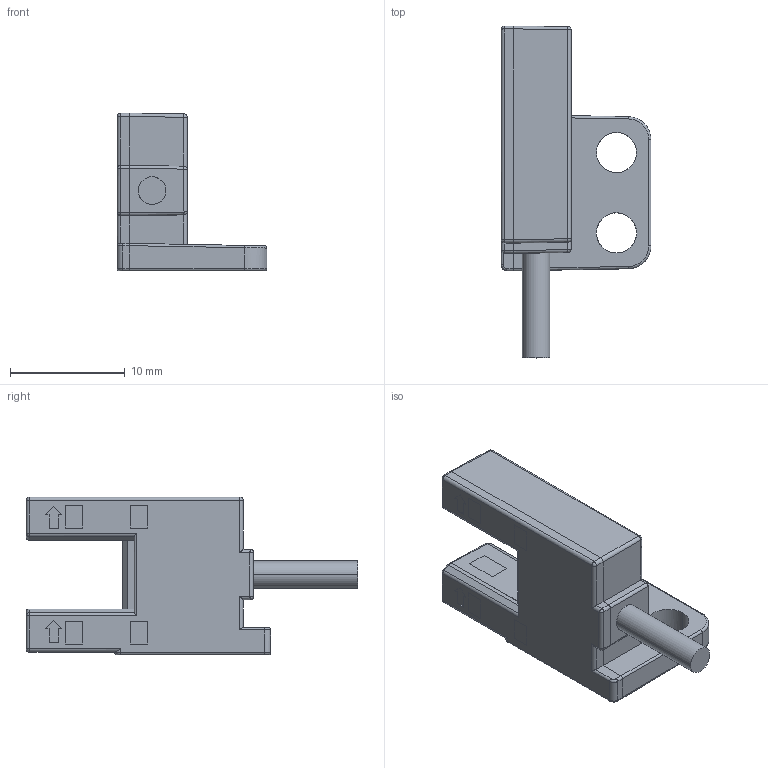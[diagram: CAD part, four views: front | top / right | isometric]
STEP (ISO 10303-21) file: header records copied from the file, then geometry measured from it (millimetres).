
FILE_DESCRIPTION((''),'2;1');
FILE_NAME('012_R45_ASM_HSG_ASM','2024-05-30T10:06:25',('PC'),(''),'CREO PARAMETRIC BY PTC INC, 2020033','CREO PARAMETRIC BY PTC INC, 2020033','');
FILE_SCHEMA(('CONFIG_CONTROL_DESIGN','SHAPE_APPEARANCE_LAYERS_GROUPS'));
Length unit declared in the file: millimetre
Products named in the file (4): 012R_R45_CASE; 012_T45_INSIDE; 013_WIRE; 012_R45_ASM_HSG_ASM
Assembly tree (3 placements, depth 2):
  012_R45_ASM_HSG_ASM
    012R_R45_CASE
    012_T45_INSIDE
    013_WIRE
Bounding box: 13.05 x 28.9 x 13.75 mm (x, y, z)
Volume: 1361.2 mm3; surface area: 2514.4 mm2
Topology: 9 solids, 9 shells, 588 faces, 1606 edges, 1032 vertices
Faces by surface type: plane 382, cylinder 157, bspline 39, torus 4, cone 4, sphere 2
Entity records: 27388 total; most frequent: CARTESIAN_POINT 5672, ORIENTED_EDGE 3212, DIRECTION 2859, PRESENTATION_STYLE_ASSIGNMENT 1879, STYLED_ITEM 1871, CURVE_STYLE 1606, EDGE_CURVE 1606, VECTOR 1207
